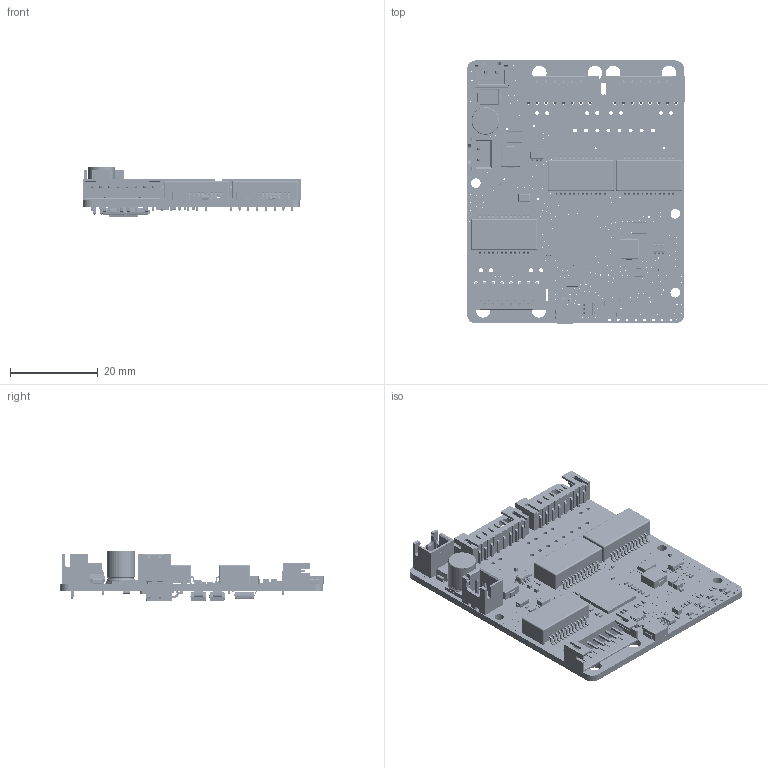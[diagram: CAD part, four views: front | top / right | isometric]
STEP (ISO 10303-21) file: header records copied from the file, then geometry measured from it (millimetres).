
FILE_DESCRIPTION(('Designed by EasyEDA Pro'),'2;1');
FILE_NAME('Open CASCADE Shape Model','2026-06-25T22:41:46',('Author'),( 'Open CASCADE'),'Open CASCADE STEP processor 7.8','Open CASCADE 7.8' ,'Unknown');
FILE_SCHEMA(('AUTOMOTIVE_DESIGN { 1 0 10303 214 1 1 1 1 }'));
Length unit declared in the file: millimetre
Products named in the file (829): EasyEDA PCB Model~hqwi; Board~hqwi; TopCopper~hqwi; BottomCopper~hqwi; TopSilkscreen~hqwi; BottomSilkscreen~hqwi; TopFpcStiffener~hqwi; BottomFpcStiffener~hqwi; C1~1206~C1206_L3.2-W1.6-H1.3_1~hqwi; 1206~C1206_L3.2-W1.6-H1.3_1~hqwi; C4~1206~C1206_L3.2-W1.6-H1.3_1~hqwi; C6~1206~C1206_L3.2-W1.6-H1.3_1~hqwi; C23~1206~C1206_L3.2-W1.6-H1.3_1~hqwi; C8~1206~C1206_L3.2-W1.6-H1.3_1~hqwi; C9~1206~C1206_L3.2-W1.6-H1.3_1~hqwi; C11~1206~C1206_L3.2-W1.6-H1.3_1~hqwi; C12~1206~C1206_L3.2-W1.6-H1.3_1~hqwi; 0402~C0402~Y4ox; C36~0402~C0402~FGte; C37~0402~C0402~h8dh; C39~0402~C0402~fkAi; C100~C0402~C0402~A9BX; C101~C0402~C0402~uDRe; C103~C0402~C0402~yEj4; C104~C0402~C0402~SJRD; C105~C0402~C0402~X6Uj; C108~C0402~C0402~UlPL; C109~C0402~C0402~ZkQA; C110~C0402~C0402~akeQ; C111~C0402~C0402~lepK; C112~C0402~C0402~8Vqg; C113~C0402~C0402~yjjg; C117~C0402~C0402~QkCd; C118~C0402~C0402~dVIV; C127~C0402~C0402~nOUF; C2~C0402~C0402~53Eb; C94~C0402~C0402~GeBH; C96~C0402~C0402~87GZ; C97~C0402~C0402~RKer; C98~C0402~C0402~Wv3v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
Assembly tree (902 placements, depth 3):
  EasyEDA PCB Model~hqwi
    Board~hqwi
    TopCopper~hqwi
      TopCopper~hqwi
      TopCopper~hqwi
      TopCopper~hqwi
      TopCopper~hqwi
      TopCopper~hqwi
      TopCopper~hqwi
      TopCopper~hqwi
      TopCopper~hqwi
      TopCopper~hqwi
      TopCopper~hqwi
      TopCopper~hqwi
      TopCopper~hqwi
      TopCopper~hqwi
      TopCopper~hqwi
      TopCopper~hqwi
      TopCopper~hqwi
      TopCopper~hqwi
      TopCopper~hqwi
      TopCopper~hqwi
      TopCopper~hqwi
      TopCopper~hqwi
      TopCopper~hqwi
      TopCopper~hqwi
      TopCopper~hqwi
      TopCopper~hqwi
      TopCopper~hqwi
      TopCopper~hqwi
      TopCopper~hqwi
      TopCopper~hqwi
      TopCopper~hqwi
      TopCopper~hqwi
      TopCopper~hqwi
      TopCopper~hqwi
      TopCopper~hqwi
      TopCopper~hqwi
      TopCopper~hqwi
      TopCopper~hqwi
      TopCopper~hqwi
      TopCopper~hqwi
      TopCopper~hqwi
      TopCopper~hqwi
      TopCopper~hqwi
      TopCopper~hqwi
      TopCopper~hqwi
      TopCopper~hqwi
      TopCopper~hqwi
      TopCopper~hqwi
      TopCopper~hqwi
      TopCopper~hqwi
      TopCopper~hqwi
      TopCopper~hqwi
      TopCopper~hqwi
      TopCopper~hqwi
      TopCopper~hqwi
      TopCopper~hqwi
      TopCopper~hqwi
      TopCopper~hqwi
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Bounding box: 49.71 x 60.02 x 11.62 mm (x, y, z)
Volume: 7537.4 mm3; surface area: 16521.6 mm2
Topology: 351 solids, 1050 shells, 33229 faces, 134733 edges, 104599 vertices
Faces by surface type: plane 19507, bspline 9579, cylinder 3444, sphere 445, torus 254
Full cylindrical faces by diameter (mm): 0.181 x1
Entity records: 847336 total; most frequent: CARTESIAN_POINT 196096, ORIENTED_EDGE 99934, DIRECTION 95625, EDGE_CURVE 73703, VERTEX_POINT 64665, LINE 58787, VECTOR 58787, AXIS2_PLACEMENT_3D 18419
